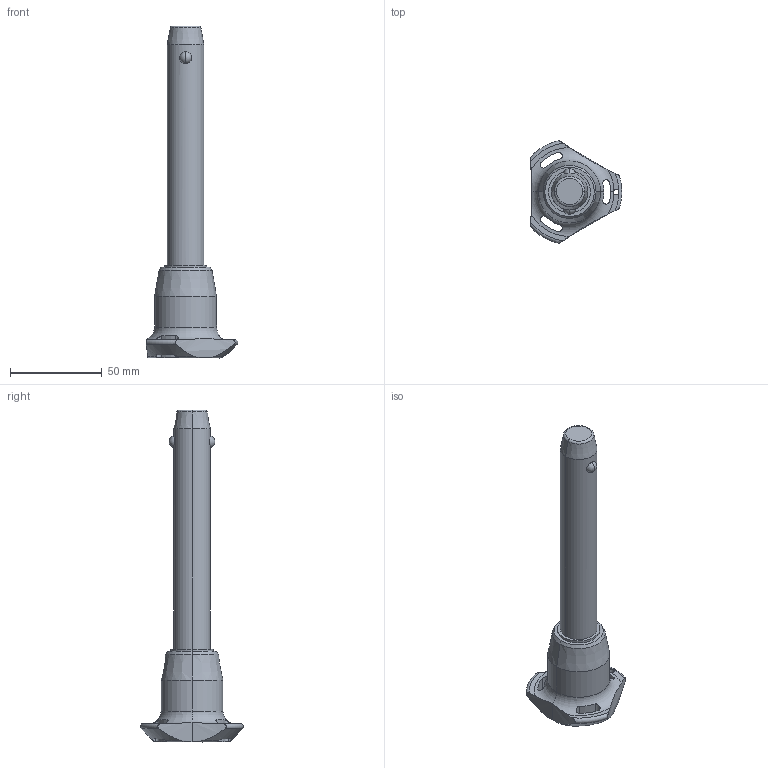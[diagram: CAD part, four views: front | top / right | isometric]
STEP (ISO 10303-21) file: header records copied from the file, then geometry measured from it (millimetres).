
FILE_DESCRIPTION (( 'STEP AP203' ), '1' );
FILE_NAME ('QR1704.M20-110-S.step', '2025-11-12T09:34:41', ( '' ), ( '' ), 'SwSTEP 2.0', 'SolidWorks 2019', '' );
FILE_SCHEMA (( 'CONFIG_CONTROL_DESIGN' ));
Length unit declared in the file: millimetre
Products named in the file (1): QR1704.M20-110-S
Bounding box: 50.04 x 56.02 x 181.2 mm (x, y, z)
Volume: 88334.5 mm3; surface area: 17878.8 mm2
Topology: 1 solids, 1 shells, 65 faces, 176 edges, 111 vertices
Faces by surface type: cylinder 30, cone 14, torus 11, sphere 6, plane 4
Entity records: 2858 total; most frequent: CARTESIAN_POINT 1179, ORIENTED_EDGE 352, DIRECTION 329, EDGE_CURVE 176, AXIS2_PLACEMENT_3D 147, VERTEX_POINT 111, CIRCLE 81, EDGE_LOOP 71
